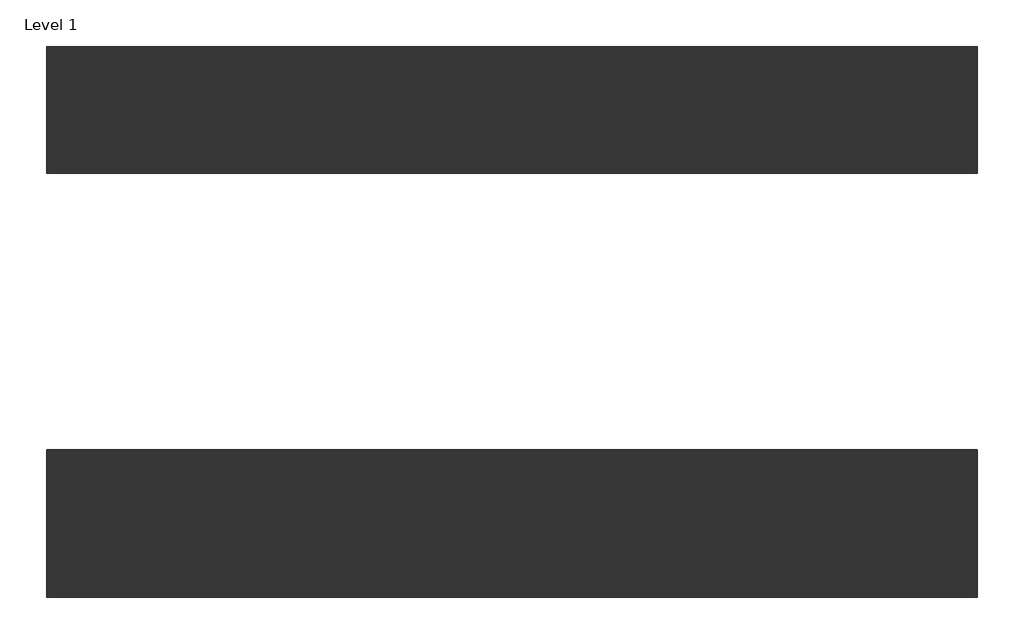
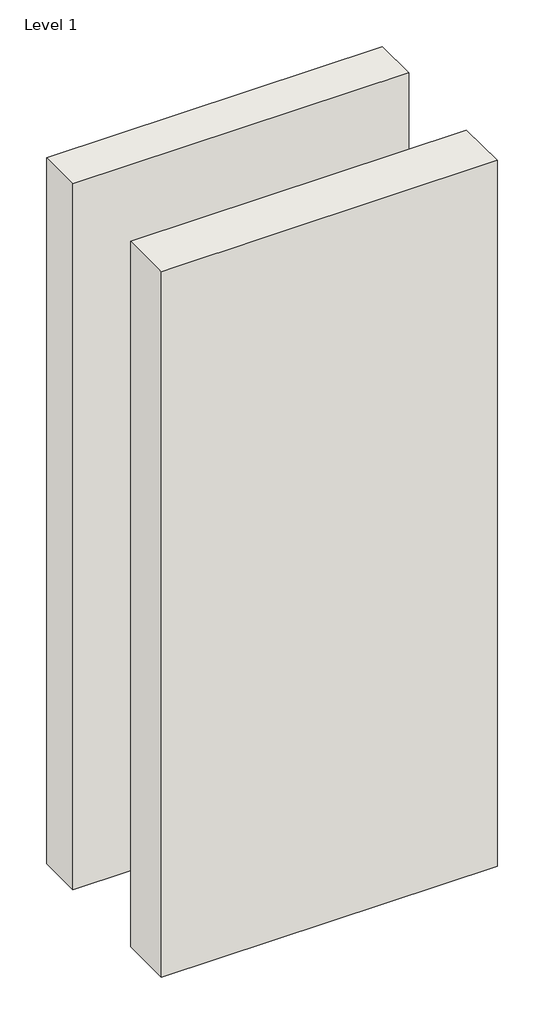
# One storey: 2 walls.
"""IFC4 building model written with IfcOpenShell, lengths in millimetres."""

import ifcopenshell
import ifcopenshell.guid

model = None  # the IFC model being written
_history = None  # IfcOwnerHistory: only IFC2X3 demands one
_inside = {}  # id of a spatial element -> (the spatial element, [elements in it])
_under = {}  # id of a project, library or spatial element -> (it, [spatial elements below it])
_declared = {}  # id of a project -> (the project, [libraries it declares])
_typed = {}  # id of a type object -> (the type object, [elements of that type])
_made_of = {}  # id of a material, layer set ... -> (it, [elements and type objects made of it])


def new_model(schema):
    """Start an empty IFC model of exactly this schema.

    Asked for "IFC4X3", IfcOpenShell would pick the latest addendum, in which some entities
    have other attributes; the version numbers below select the first issue.
    IFC2X3 requires an IfcOwnerHistory on every rooted entity: one is made here for all.
    """
    global model, _history
    if schema == "IFC4X3":
        model = ifcopenshell.file(schema_version=(4, 3, 0, 0))
    else:
        model = ifcopenshell.file(schema=schema)
    _inside.clear()
    _under.clear()
    _declared.clear()
    _typed.clear()
    _made_of.clear()
    _history = None
    if model.schema == "IFC2X3":
        org = make("IfcOrganization", Name="unknown")
        user = make(
            "IfcPersonAndOrganization",
            ThePerson=make("IfcPerson", FamilyName="unknown"),
            TheOrganization=org,
        )
        app = make(
            "IfcApplication",
            ApplicationDeveloper=org,
            Version="unknown",
            ApplicationFullName="unknown",
            ApplicationIdentifier="unknown",
        )
        _history = make(
            "IfcOwnerHistory",
            OwningUser=user,
            OwningApplication=app,
            ChangeAction="ADDED",
            CreationDate=0,
        )
    return model


def make(cls, **values):
    """One entity of the class cls with the attributes given. An attribute that is None is left unset."""
    return model.create_entity(
        cls, **{name: value for name, value in values.items() if value is not None}
    )


def rooted(cls, **values):
    """An entity with a GlobalId (a new one), such as an element, a storey or a relation."""
    return make(cls, GlobalId=ifcopenshell.guid.new(), OwnerHistory=_history, **values)


def si_unit(unit_type, name, prefix=None):
    """IfcSIUnit, for example si_unit("LENGTHUNIT", "METRE", prefix="MILLI")."""
    return make("IfcSIUnit", UnitType=unit_type, Prefix=prefix, Name=name)


def assignment(units):
    """IfcUnitAssignment: the units of a project."""
    return None if units is None else make("IfcUnitAssignment", Units=units)


def point(xyz):
    """IfcCartesianPoint."""
    return None if xyz is None else make("IfcCartesianPoint", Coordinates=xyz)


def direction(xyz):
    """IfcDirection."""
    return None if xyz is None else make("IfcDirection", DirectionRatios=xyz)


def frame(location, z_axis=None, x_axis=None):
    """IfcAxis2Placement3D, a coordinate frame: its origin and axes. An axis left out is left unset."""
    return make(
        "IfcAxis2Placement3D",
        Location=point(location),
        Axis=direction(z_axis),
        RefDirection=direction(x_axis),
    )


def origin():
    """The frame at (0, 0, 0) with its axes left unset."""
    return frame((0.0, 0.0, 0.0))


def origin_with_axes():
    """The frame at (0, 0, 0) with the z axis (0, 0, 1) and the x axis (1, 0, 0) written out."""
    return frame((0.0, 0.0, 0.0), z_axis=(0.0, 0.0, 1.0), x_axis=(1.0, 0.0, 0.0))


def place(relative_to, where):
    """IfcLocalPlacement: puts the frame where relative to a parent placement (None: the world)."""
    return make(
        "IfcLocalPlacement", PlacementRelTo=relative_to, RelativePlacement=where
    )


def context(
    kind, dimensions, precision=None, world=None, true_north=None, identifier=None
):
    """IfcGeometricRepresentationContext, for example the 3D "Model" context."""
    return make(
        "IfcGeometricRepresentationContext",
        ContextIdentifier=identifier,
        ContextType=kind,
        CoordinateSpaceDimension=dimensions,
        Precision=precision,
        WorldCoordinateSystem=world,
        TrueNorth=true_north,
    )


def project(units=None, contexts=None):
    """IfcProject with its units and contexts."""
    return rooted(
        "IfcProject",
        Name="project",
        RepresentationContexts=contexts,
        UnitsInContext=assignment(units),
    )


def spatial(cls, under=None, at=None, **own):
    """A site, building, storey or space (cls), placed at a placement, below another one or the project."""
    s = rooted(cls, ObjectPlacement=at, **own)
    if under is not None:
        _under.setdefault(under.id(), (under, []))[1].append(s)
    return s


def polyline(points):
    """IfcPolyline through the points."""
    return make("IfcPolyline", Points=[point(p) for p in points])


def outline(outer, holes=None, kind="AREA"):
    """IfcArbitraryClosedProfileDef: a profile drawn as a closed curve; with holes, ...WithVoids."""
    if holes is None:
        return make("IfcArbitraryClosedProfileDef", ProfileType=kind, OuterCurve=outer)
    return make(
        "IfcArbitraryProfileDefWithVoids",
        ProfileType=kind,
        OuterCurve=outer,
        InnerCurves=holes,
    )


def extrude(swept, where, along, depth):
    """IfcExtrudedAreaSolid: the profile swept, set in the frame where, extruded along a direction by depth."""
    return make(
        "IfcExtrudedAreaSolid",
        SweptArea=swept,
        Position=where,
        ExtrudedDirection=direction(along),
        Depth=depth,
    )


def shape(context_of_items, identifier, shape_type, items):
    """IfcShapeRepresentation: the items that make up one representation, for example the "Body"."""
    return make(
        "IfcShapeRepresentation",
        ContextOfItems=context_of_items,
        RepresentationIdentifier=identifier,
        RepresentationType=shape_type,
        Items=items,
    )


def made_of(thing, what):
    """Note that an element or type object is made of a material, layer set ...; save() writes the relation."""
    if what is not None:
        _made_of.setdefault(what.id(), (what, []))[1].append(thing)
    return thing


def element(
    cls,
    number,
    at=None,
    inside=None,
    cuts=None,
    type_object=None,
    material=None,
    context=None,
    identifier="Body",
    shape_type=None,
    held_by="IfcProductDefinitionShape",
    body=None,
    shapes=None,
    **own,
):
    """One element of the class cls, such as IfcWall. Its Tag is "e" and its number.

    at: its placement. inside: the storey or other place that contains it. cuts: it is an
    opening in that element (IfcRelVoidsElement). A single representation is given by context,
    identifier, shape_type and body (its items); several are given by shapes. held_by: the class
    of the entity that holds the representations. save() writes the other relations.
    """
    e = rooted(cls, Tag="e%d" % number, ObjectPlacement=at, **own)
    if body is not None:
        shapes = [shape(context, identifier, shape_type, body)]
    if shapes is not None:
        e.Representation = make(held_by, Representations=shapes)
    if inside is not None:
        _inside.setdefault(inside.id(), (inside, []))[1].append(e)
    if cuts is not None:
        rooted(
            "IfcRelVoidsElement", RelatingBuildingElement=cuts, RelatedOpeningElement=e
        )
    if type_object is not None:
        _typed.setdefault(type_object.id(), (type_object, []))[1].append(e)
    return made_of(e, material)


def aggregate(whole, parts):
    """IfcRelAggregates: a whole, such as a stair, and the parts it consists of."""
    return rooted("IfcRelAggregates", RelatingObject=whole, RelatedObjects=parts)


def save(model, path):
    """Write the relations noted so far, then the file.

    IfcRelAggregates (storeys below a building ...), IfcRelContainedInSpatialStructure (elements
    in a storey), IfcRelDefinesByType, IfcRelAssociatesMaterial and IfcRelDeclares: one each for
    every whole, place, type object, material and project.
    """
    for whole, parts in _under.values():
        aggregate(whole, parts)
    for where, things in _inside.values():
        rooted(
            "IfcRelContainedInSpatialStructure",
            RelatedElements=things,
            RelatingStructure=where,
        )
    for kind, things in _typed.values():
        rooted("IfcRelDefinesByType", RelatedObjects=things, RelatingType=kind)
    for what, things in _made_of.values():
        rooted("IfcRelAssociatesMaterial", RelatedObjects=things, RelatingMaterial=what)
    for by, libraries in _declared.values():
        rooted("IfcRelDeclares", RelatingContext=by, RelatedDefinitions=libraries)
    model.write(path)


model = new_model("IFC4")

# Units and contexts
model_context = context("Model", 3, world=origin())
ifc_project = project(units=[si_unit("LENGTHUNIT", "METRE", prefix="MILLI")], contexts=[model_context])

# Site, building, storey
site = spatial("IfcSite", under=ifc_project)
building = spatial("IfcBuilding", under=site)
storey = spatial("IfcBuildingStorey", under=building, Name="Level 1", Elevation=0.0)

# Walls
placement = place(None, origin())
element("IfcWall", 1, ObjectType="Interior-Timber Frame-Party Wall with 25mm Fire Barrier-CSR2405-245mm", at=placement, inside=storey, context=model_context, shape_type="SweptSolid", body=[
    extrude(outline(polyline([(1209.1027791, -2894.0592728), (3009.1027791, -2894.0592728), (3009.1027791, -3139.0592728), (1209.1027791, -3139.0592728), (1209.1027791, -2894.0592728)])), origin_with_axes(), (0.0, 0.0, 1.0), 4000.0),
])
element("IfcWall", 2, ObjectType="Interior-Timber Frame-Party Wall with 25mm Fire Barrier-CSR2405-285mm", at=placement, inside=storey, context=model_context, shape_type="SweptSolid", body=[
    extrude(outline(polyline([(1209.1027791, -3674.0592728), (3009.1027791, -3674.0592728), (3009.1027791, -3959.0592728), (1209.1027791, -3959.0592728), (1209.1027791, -3674.0592728)])), origin_with_axes(), (0.0, 0.0, 1.0), 4000.0),
])

save(model, "model.ifc")
